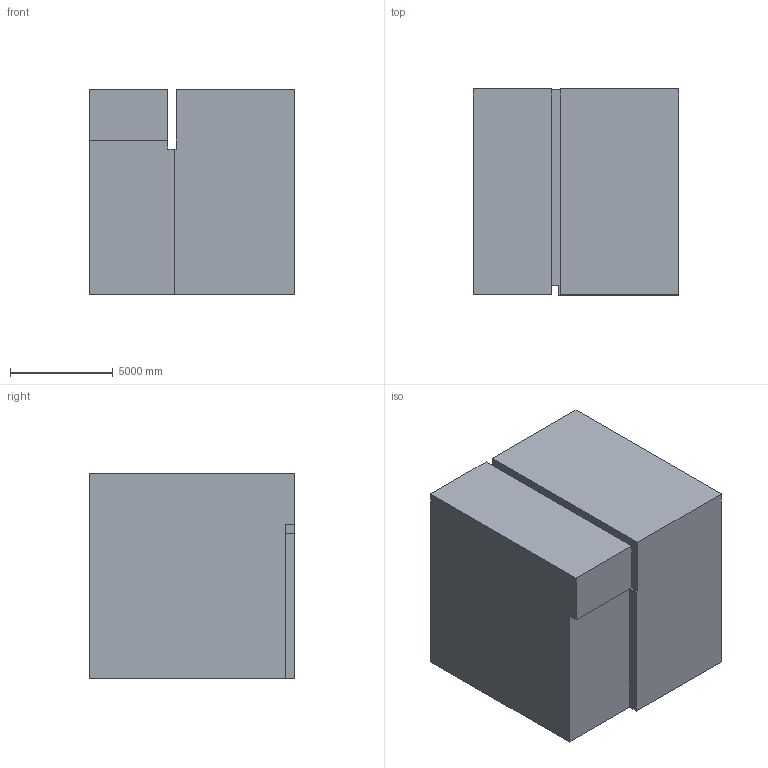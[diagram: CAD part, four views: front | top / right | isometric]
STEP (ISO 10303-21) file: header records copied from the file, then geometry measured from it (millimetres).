
FILE_DESCRIPTION (( 'STEP AP203' ), '1' );
FILE_NAME ('117.STEP', '2022-09-06T13:18:36', ( 'user' ), ( '' ), 'SwSTEP 2.0', 'SolidWorks 2021', '' );
FILE_SCHEMA (( 'CONFIG_CONTROL_DESIGN' ));
Length unit declared in the file: centimetre
Products named in the file (1): 117
Bounding box: 10000 x 10000 x 10000 mm (x, y, z)
Volume: 973496998576.1 mm3; surface area: 655191056.6 mm2
Topology: 1 solids, 1 shells, 14 faces, 36 edges, 24 vertices
Faces by surface type: plane 14
Entity records: 497 total; most frequent: CARTESIAN_POINT 75, ORIENTED_EDGE 72, DIRECTION 66, EDGE_CURVE 36, VECTOR 36, LINE 36, VERTEX_POINT 24, AXIS2_PLACEMENT_3D 15
